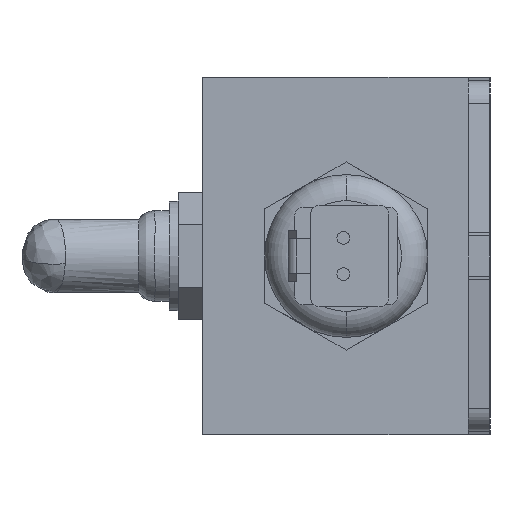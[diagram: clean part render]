
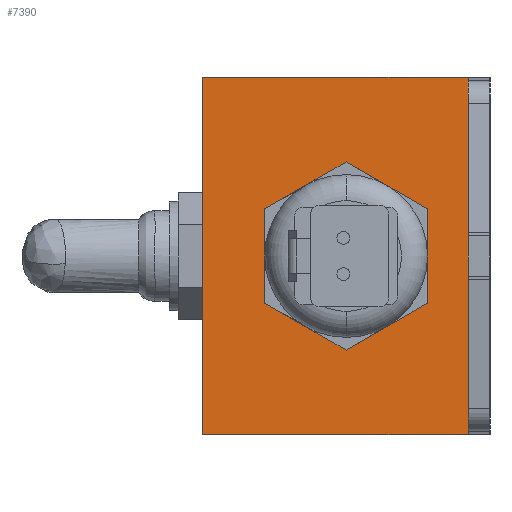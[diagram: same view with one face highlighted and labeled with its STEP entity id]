
A CAD part, left-side view. The second image highlights one B-rep face of the part: STEP entity #7390.
In plain terms, the highlighted planar face has unit normal (-1, 0, 0).
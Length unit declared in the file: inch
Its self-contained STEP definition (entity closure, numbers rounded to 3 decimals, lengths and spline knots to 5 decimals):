
#12 = VECTOR ( 'NONE', #8463, 39.37008 ) ;
#48 = CARTESIAN_POINT ( 'NONE',  ( -1.5925, 0.8285, 1.03 ) ) ;
#128 = FACE_OUTER_BOUND ( 'NONE', #3380, .T. ) ;
#279 = DIRECTION ( 'NONE',  ( 0., 0., 1. ) ) ;
#321 = VECTOR ( 'NONE', #6646, 39.37008 ) ;
#428 = CARTESIAN_POINT ( 'NONE',  ( -1.5925, -0.469, -0.27078 ) ) ;
#448 = DIRECTION ( 'NONE',  ( 0., 0.866, -0.5 ) ) ;
#589 = EDGE_CURVE ( 'NONE', #1477, #7484, #2244, .T. ) ;
#654 = LINE ( 'NONE', #8148, #6738 ) ;
#674 = LINE ( 'NONE', #3364, #6527 ) ;
#687 = CARTESIAN_POINT ( 'NONE',  ( -1.5925, 0.469, -0.27078 ) ) ;
#714 = ORIENTED_EDGE ( 'NONE', *, *, #5258, .F. ) ;
#735 = ORIENTED_EDGE ( 'NONE', *, *, #5085, .T. ) ;
#903 = LINE ( 'NONE', #8788, #6515 ) ;
#1018 = CARTESIAN_POINT ( 'NONE',  ( -1.5925, -0.7035, -1.03 ) ) ;
#1100 = DIRECTION ( 'NONE',  ( 0., 0., -1. ) ) ;
#1116 = ORIENTED_EDGE ( 'NONE', *, *, #7672, .F. ) ;
#1160 = ORIENTED_EDGE ( 'NONE', *, *, #6379, .T. ) ;
#1176 = CARTESIAN_POINT ( 'NONE',  ( -1.5925, -0.469, -0.27078 ) ) ;
#1477 = VERTEX_POINT ( 'NONE', #428 ) ;
#1521 = CARTESIAN_POINT ( 'NONE',  ( -1.5925, 0.469, 0.27078 ) ) ;
#1531 = CARTESIAN_POINT ( 'NONE',  ( -1.5925, -0.7035, -1.03 ) ) ;
#1559 = VERTEX_POINT ( 'NONE', #6187 ) ;
#1575 = LINE ( 'NONE', #1018, #9188 ) ;
#1633 = VERTEX_POINT ( 'NONE', #5069 ) ;
#1916 = LINE ( 'NONE', #687, #9510 ) ;
#1926 = ORIENTED_EDGE ( 'NONE', *, *, #2238, .T. ) ;
#2055 = LINE ( 'NONE', #4640, #7467 ) ;
#2238 = EDGE_CURVE ( 'NONE', #8482, #8444, #1916, .T. ) ;
#2244 = LINE ( 'NONE', #1176, #5450 ) ;
#2301 = AXIS2_PLACEMENT_3D ( 'NONE', #48, #8175, #3761 ) ;
#2565 = CARTESIAN_POINT ( 'NONE',  ( -1.5925, 0.8285, 1.03 ) ) ;
#2971 = CARTESIAN_POINT ( 'NONE',  ( -1.5925, 0.469, -0.27078 ) ) ;
#3249 = CARTESIAN_POINT ( 'NONE',  ( -1.5925, 0., -0.54155 ) ) ;
#3348 = ORIENTED_EDGE ( 'NONE', *, *, #5812, .T. ) ;
#3364 = CARTESIAN_POINT ( 'NONE',  ( -1.5925, 0.8285, 1.03 ) ) ;
#3380 = EDGE_LOOP ( 'NONE', ( #735, #8410, #1116, #714 ) ) ;
#3745 = DIRECTION ( 'NONE',  ( 0., 0.866, 0.5 ) ) ;
#3761 = DIRECTION ( 'NONE',  ( 0., 0., -1. ) ) ;
#4072 = FACE_BOUND ( 'NONE', #9199, .T. ) ;
#4095 = DIRECTION ( 'NONE',  ( 0., 0., 1. ) ) ;
#4640 = CARTESIAN_POINT ( 'NONE',  ( -1.5925, 0.8285, -1.03 ) ) ;
#5069 = CARTESIAN_POINT ( 'NONE',  ( -1.5925, -0.7035, 1.03 ) ) ;
#5085 = EDGE_CURVE ( 'NONE', #6773, #6442, #2055, .T. ) ;
#5156 = LINE ( 'NONE', #6964, #6876 ) ;
#5229 = VERTEX_POINT ( 'NONE', #9215 ) ;
#5258 = EDGE_CURVE ( 'NONE', #6773, #1559, #674, .T. ) ;
#5369 = DIRECTION ( 'NONE',  ( 0., -1., 0. ) ) ;
#5372 = ORIENTED_EDGE ( 'NONE', *, *, #589, .T. ) ;
#5449 = EDGE_CURVE ( 'NONE', #5229, #1477, #5156, .T. ) ;
#5450 = VECTOR ( 'NONE', #448, 39.37008 ) ;
#5467 = CARTESIAN_POINT ( 'NONE',  ( -1.5925, 0.8285, -1.03 ) ) ;
#5682 = ORIENTED_EDGE ( 'NONE', *, *, #5449, .T. ) ;
#5812 = EDGE_CURVE ( 'NONE', #6275, #5229, #903, .T. ) ;
#5821 = DIRECTION ( 'NONE',  ( 0., 0., 1. ) ) ;
#5856 = CARTESIAN_POINT ( 'NONE',  ( -1.5925, 0.469, 0.27078 ) ) ;
#6187 = CARTESIAN_POINT ( 'NONE',  ( -1.5925, 0.8285, 1.03 ) ) ;
#6188 = EDGE_CURVE ( 'NONE', #8444, #6275, #8162, .T. ) ;
#6275 = VERTEX_POINT ( 'NONE', #7272 ) ;
#6379 = EDGE_CURVE ( 'NONE', #7484, #8482, #654, .T. ) ;
#6442 = VERTEX_POINT ( 'NONE', #1531 ) ;
#6453 = ORIENTED_EDGE ( 'NONE', *, *, #6188, .T. ) ;
#6515 = VECTOR ( 'NONE', #9521, 39.37008 ) ;
#6527 = VECTOR ( 'NONE', #4095, 39.37008 ) ;
#6646 = DIRECTION ( 'NONE',  ( 0., -0.866, 0.5 ) ) ;
#6738 = VECTOR ( 'NONE', #3745, 39.37008 ) ;
#6773 = VERTEX_POINT ( 'NONE', #5467 ) ;
#6876 = VECTOR ( 'NONE', #1100, 39.37008 ) ;
#6964 = CARTESIAN_POINT ( 'NONE',  ( -1.5925, -0.469, 0.27078 ) ) ;
#7272 = CARTESIAN_POINT ( 'NONE',  ( -1.5925, 0., 0.54155 ) ) ;
#7390 = ADVANCED_FACE ( 'NONE', ( #4072, #128 ), #7407, .F. ) ;
#7407 = PLANE ( 'NONE',  #2301 ) ;
#7467 = VECTOR ( 'NONE', #5369, 39.37008 ) ;
#7484 = VERTEX_POINT ( 'NONE', #3249 ) ;
#7672 = EDGE_CURVE ( 'NONE', #1559, #1633, #7848, .T. ) ;
#7848 = LINE ( 'NONE', #2565, #12 ) ;
#8148 = CARTESIAN_POINT ( 'NONE',  ( -1.5925, 0., -0.54155 ) ) ;
#8162 = LINE ( 'NONE', #1521, #321 ) ;
#8175 = DIRECTION ( 'NONE',  ( 1., 0., 0. ) ) ;
#8410 = ORIENTED_EDGE ( 'NONE', *, *, #9019, .T. ) ;
#8444 = VERTEX_POINT ( 'NONE', #5856 ) ;
#8463 = DIRECTION ( 'NONE',  ( 0., -1., 0. ) ) ;
#8482 = VERTEX_POINT ( 'NONE', #2971 ) ;
#8788 = CARTESIAN_POINT ( 'NONE',  ( -1.5925, 0., 0.54155 ) ) ;
#9019 = EDGE_CURVE ( 'NONE', #6442, #1633, #1575, .T. ) ;
#9188 = VECTOR ( 'NONE', #279, 39.37008 ) ;
#9199 = EDGE_LOOP ( 'NONE', ( #5372, #1160, #1926, #6453, #3348, #5682 ) ) ;
#9215 = CARTESIAN_POINT ( 'NONE',  ( -1.5925, -0.469, 0.27078 ) ) ;
#9510 = VECTOR ( 'NONE', #5821, 39.37008 ) ;
#9521 = DIRECTION ( 'NONE',  ( 0., -0.866, -0.5 ) ) ;
